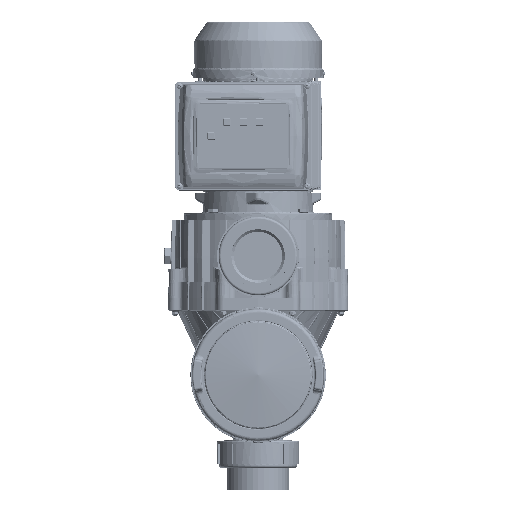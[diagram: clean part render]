
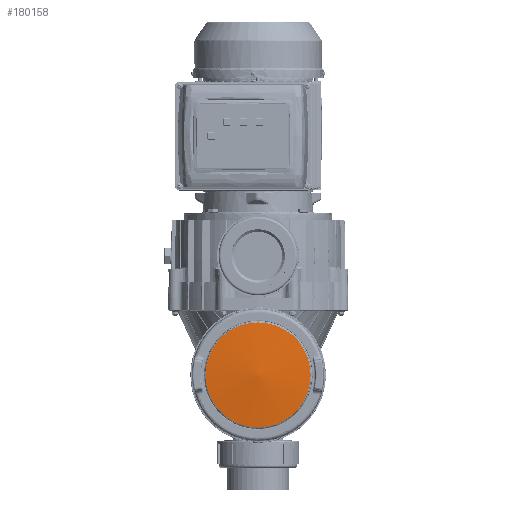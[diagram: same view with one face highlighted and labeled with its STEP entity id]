
A CAD part, top view. The second image highlights one B-rep face of the part: STEP entity #180158.
In plain terms, the highlighted spherical face has radius 535.442 mm.
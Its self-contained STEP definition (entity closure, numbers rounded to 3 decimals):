
#359=SPHERICAL_SURFACE('',#191673,535.442);
#19046=CIRCLE('',#191672,88.284);
#56321=ORIENTED_EDGE('',*,*,#75024,.F.);
#75024=EDGE_CURVE('',#86366,#86366,#19046,.T.);
#86366=VERTEX_POINT('',#380582);
#106005=EDGE_LOOP('',(#56321));
#114619=FACE_BOUND('',#106005,.T.);
#180158=ADVANCED_FACE('',(#114619),#359,.T.);
#191672=AXIS2_PLACEMENT_3D('',#380581,#220201,#220202);
#191673=AXIS2_PLACEMENT_3D('',#380583,#220203,#220204);
#220201=DIRECTION('',(0.,-1.,0.));
#220202=DIRECTION('',(1.,0.,0.));
#220203=DIRECTION('',(0.,-1.,0.));
#220204=DIRECTION('',(-1.,0.,0.));
#380581=CARTESIAN_POINT('',(-0.001,262.963,401.487));
#380582=CARTESIAN_POINT('',(88.282,262.963,401.487));
#380583=CARTESIAN_POINT('',(-0.001,-265.151,401.487));
